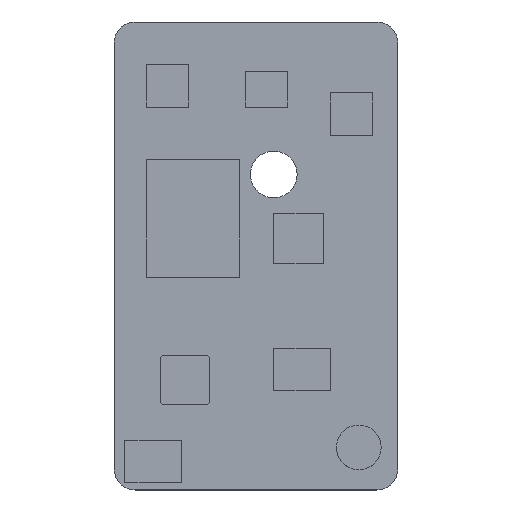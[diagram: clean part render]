
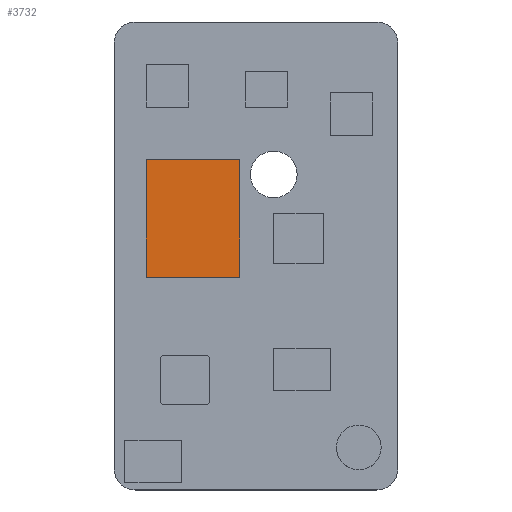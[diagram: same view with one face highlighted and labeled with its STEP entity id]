
A CAD part, top view. The second image highlights one B-rep face of the part: STEP entity #3732.
In plain terms, the highlighted planar face has unit normal (0, 0, 1).
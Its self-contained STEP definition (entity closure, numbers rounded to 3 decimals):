
#855 = PLANE('',#856);
#856 = AXIS2_PLACEMENT_3D('',#857,#858,#859);
#857 = CARTESIAN_POINT('',(-66.,20.,29.1));
#858 = DIRECTION('',(1.,0.,-0.));
#859 = DIRECTION('',(0.,0.,1.));
#883 = PLANE('',#884);
#884 = AXIS2_PLACEMENT_3D('',#885,#886,#887);
#885 = CARTESIAN_POINT('',(-66.,36.6,29.1));
#886 = DIRECTION('',(-0.,1.,0.));
#887 = DIRECTION('',(0.,0.,1.));
#911 = PLANE('',#912);
#912 = AXIS2_PLACEMENT_3D('',#913,#914,#915);
#913 = CARTESIAN_POINT('',(-52.8,20.,29.1));
#914 = DIRECTION('',(1.,0.,-0.));
#915 = DIRECTION('',(0.,0.,1.));
#937 = PLANE('',#938);
#938 = AXIS2_PLACEMENT_3D('',#939,#940,#941);
#939 = CARTESIAN_POINT('',(-66.,20.,29.1));
#940 = DIRECTION('',(-0.,1.,0.));
#941 = DIRECTION('',(0.,0.,1.));
#2676 = VERTEX_POINT('',#2677);
#2677 = CARTESIAN_POINT('',(-66.,20.,31.5));
#2700 = VERTEX_POINT('',#2701);
#2701 = CARTESIAN_POINT('',(-66.,36.6,31.5));
#2722 = EDGE_CURVE('',#2676,#2700,#2723,.T.);
#2723 = SURFACE_CURVE('',#2724,(#2728,#2735),.PCURVE_S1.);
#2724 = LINE('',#2725,#2726);
#2725 = CARTESIAN_POINT('',(-66.,20.,31.5));
#2726 = VECTOR('',#2727,1.);
#2727 = DIRECTION('',(-0.,1.,0.));
#2728 = PCURVE('',#855,#2729);
#2729 = DEFINITIONAL_REPRESENTATION('',(#2730),#2734);
#2730 = LINE('',#2731,#2732);
#2731 = CARTESIAN_POINT('',(2.4,0.));
#2732 = VECTOR('',#2733,1.);
#2733 = DIRECTION('',(0.,-1.));
#2734 = ( GEOMETRIC_REPRESENTATION_CONTEXT(2) 
PARAMETRIC_REPRESENTATION_CONTEXT() REPRESENTATION_CONTEXT('2D SPACE',''
  ) );
#2735 = PCURVE('',#2736,#2741);
#2736 = PLANE('',#2737);
#2737 = AXIS2_PLACEMENT_3D('',#2738,#2739,#2740);
#2738 = CARTESIAN_POINT('',(-66.,20.,31.5));
#2739 = DIRECTION('',(0.,0.,1.));
#2740 = DIRECTION('',(1.,0.,-0.));
#2741 = DEFINITIONAL_REPRESENTATION('',(#2742),#2746);
#2742 = LINE('',#2743,#2744);
#2743 = CARTESIAN_POINT('',(0.,0.));
#2744 = VECTOR('',#2745,1.);
#2745 = DIRECTION('',(0.,1.));
#2746 = ( GEOMETRIC_REPRESENTATION_CONTEXT(2) 
PARAMETRIC_REPRESENTATION_CONTEXT() REPRESENTATION_CONTEXT('2D SPACE',''
  ) );
#2753 = EDGE_CURVE('',#2700,#2754,#2756,.T.);
#2754 = VERTEX_POINT('',#2755);
#2755 = CARTESIAN_POINT('',(-52.8,36.6,31.5));
#2756 = SURFACE_CURVE('',#2757,(#2761,#2768),.PCURVE_S1.);
#2757 = LINE('',#2758,#2759);
#2758 = CARTESIAN_POINT('',(-66.,36.6,31.5));
#2759 = VECTOR('',#2760,1.);
#2760 = DIRECTION('',(1.,0.,-0.));
#2761 = PCURVE('',#883,#2762);
#2762 = DEFINITIONAL_REPRESENTATION('',(#2763),#2767);
#2763 = LINE('',#2764,#2765);
#2764 = CARTESIAN_POINT('',(2.4,0.));
#2765 = VECTOR('',#2766,1.);
#2766 = DIRECTION('',(0.,1.));
#2767 = ( GEOMETRIC_REPRESENTATION_CONTEXT(2) 
PARAMETRIC_REPRESENTATION_CONTEXT() REPRESENTATION_CONTEXT('2D SPACE',''
  ) );
#2768 = PCURVE('',#2736,#2769);
#2769 = DEFINITIONAL_REPRESENTATION('',(#2770),#2774);
#2770 = LINE('',#2771,#2772);
#2771 = CARTESIAN_POINT('',(0.,16.6));
#2772 = VECTOR('',#2773,1.);
#2773 = DIRECTION('',(1.,0.));
#2774 = ( GEOMETRIC_REPRESENTATION_CONTEXT(2) 
PARAMETRIC_REPRESENTATION_CONTEXT() REPRESENTATION_CONTEXT('2D SPACE',''
  ) );
#2802 = EDGE_CURVE('',#2676,#2803,#2805,.T.);
#2803 = VERTEX_POINT('',#2804);
#2804 = CARTESIAN_POINT('',(-52.8,20.,31.5));
#2805 = SURFACE_CURVE('',#2806,(#2810,#2817),.PCURVE_S1.);
#2806 = LINE('',#2807,#2808);
#2807 = CARTESIAN_POINT('',(-66.,20.,31.5));
#2808 = VECTOR('',#2809,1.);
#2809 = DIRECTION('',(1.,0.,-0.));
#2810 = PCURVE('',#937,#2811);
#2811 = DEFINITIONAL_REPRESENTATION('',(#2812),#2816);
#2812 = LINE('',#2813,#2814);
#2813 = CARTESIAN_POINT('',(2.4,0.));
#2814 = VECTOR('',#2815,1.);
#2815 = DIRECTION('',(0.,1.));
#2816 = ( GEOMETRIC_REPRESENTATION_CONTEXT(2) 
PARAMETRIC_REPRESENTATION_CONTEXT() REPRESENTATION_CONTEXT('2D SPACE',''
  ) );
#2817 = PCURVE('',#2736,#2818);
#2818 = DEFINITIONAL_REPRESENTATION('',(#2819),#2823);
#2819 = LINE('',#2820,#2821);
#2820 = CARTESIAN_POINT('',(0.,0.));
#2821 = VECTOR('',#2822,1.);
#2822 = DIRECTION('',(1.,0.));
#2823 = ( GEOMETRIC_REPRESENTATION_CONTEXT(2) 
PARAMETRIC_REPRESENTATION_CONTEXT() REPRESENTATION_CONTEXT('2D SPACE',''
  ) );
#2852 = EDGE_CURVE('',#2803,#2754,#2853,.T.);
#2853 = SURFACE_CURVE('',#2854,(#2858,#2865),.PCURVE_S1.);
#2854 = LINE('',#2855,#2856);
#2855 = CARTESIAN_POINT('',(-52.8,20.,31.5));
#2856 = VECTOR('',#2857,1.);
#2857 = DIRECTION('',(-0.,1.,0.));
#2858 = PCURVE('',#911,#2859);
#2859 = DEFINITIONAL_REPRESENTATION('',(#2860),#2864);
#2860 = LINE('',#2861,#2862);
#2861 = CARTESIAN_POINT('',(2.4,0.));
#2862 = VECTOR('',#2863,1.);
#2863 = DIRECTION('',(0.,-1.));
#2864 = ( GEOMETRIC_REPRESENTATION_CONTEXT(2) 
PARAMETRIC_REPRESENTATION_CONTEXT() REPRESENTATION_CONTEXT('2D SPACE',''
  ) );
#2865 = PCURVE('',#2736,#2866);
#2866 = DEFINITIONAL_REPRESENTATION('',(#2867),#2871);
#2867 = LINE('',#2868,#2869);
#2868 = CARTESIAN_POINT('',(13.2,0.));
#2869 = VECTOR('',#2870,1.);
#2870 = DIRECTION('',(0.,1.));
#2871 = ( GEOMETRIC_REPRESENTATION_CONTEXT(2) 
PARAMETRIC_REPRESENTATION_CONTEXT() REPRESENTATION_CONTEXT('2D SPACE',''
  ) );
#3732 = ADVANCED_FACE('',(#3733),#2736,.T.);
#3733 = FACE_BOUND('',#3734,.T.);
#3734 = EDGE_LOOP('',(#3735,#3736,#3737,#3738));
#3735 = ORIENTED_EDGE('',*,*,#2722,.F.);
#3736 = ORIENTED_EDGE('',*,*,#2802,.T.);
#3737 = ORIENTED_EDGE('',*,*,#2852,.T.);
#3738 = ORIENTED_EDGE('',*,*,#2753,.F.);
